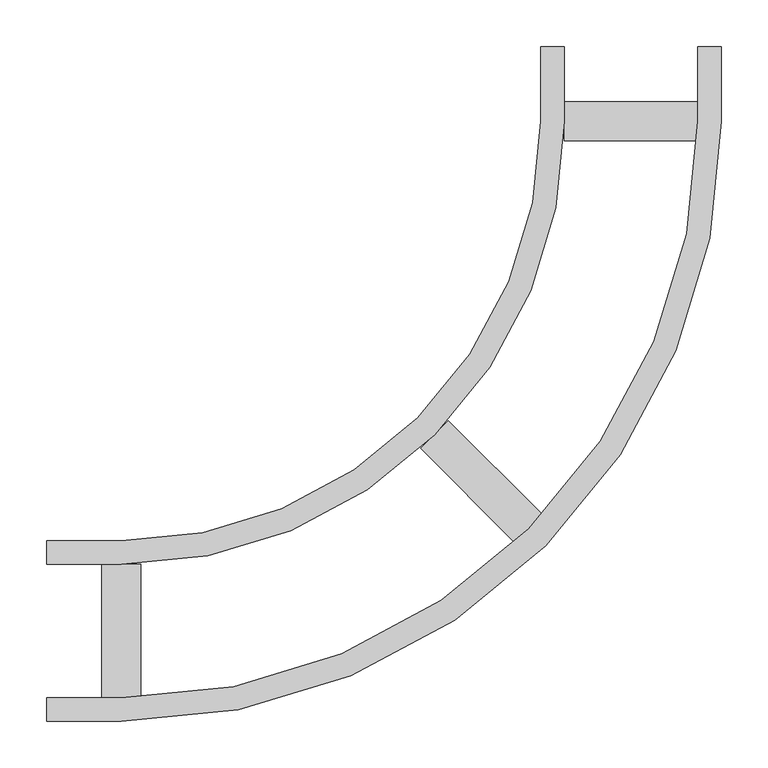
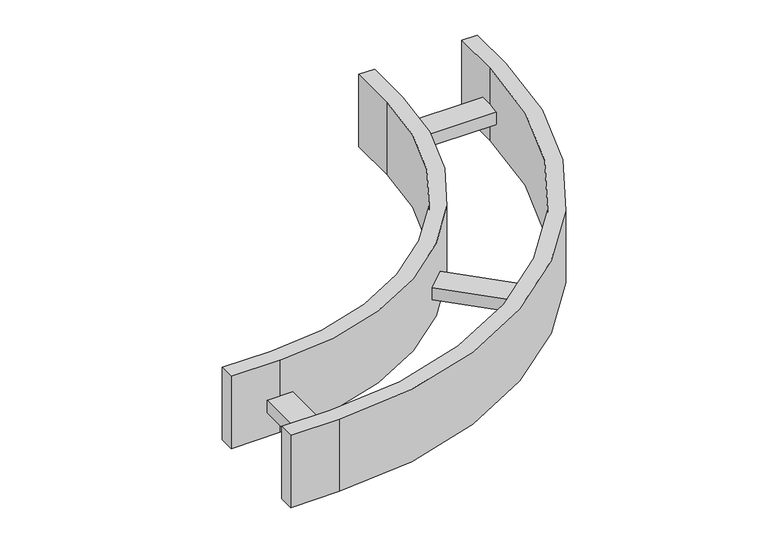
"""IFC4 building model written with IfcOpenShell, lengths in millimetres: cable carrier fitting geometry, Legrand_CableLadder_Swifts_Sapphire_FlatBend-13 : Hot Dip Galvanised (after manufacture)."""

from ifc_helpers import new_model, si_unit, point, frame, frame_2d, origin, place, context, project, spatial, polyline, circle_curve, trimmed, segment, composite_curve, outline, extrude, source, transform, mapped, element, save


def cable_carrier_fitting_26770770(model_context):
    return source(origin(), model_context, "Body", "SweptSolid", [
        extrude(outline(polyline([(-124.5036982, 94.8052134), (-225.619968, 195.9214831), (-195.9214831, 225.619968), (-94.8052134, 124.5036982), (-124.5036982, 94.8052134)])), frame((0.0, 0.0, -21.0), z_axis=(0.0, 0.0, 1.0), x_axis=(1.0, 0.0, 0.0)), (0.0, 0.0, 1.0), 21.0),
        extrude(outline(polyline([(-568.0, -71.5), (-568.0, 71.5), (-526.0, 71.5), (-526.0, -71.5), (-568.0, -71.5)])), frame((0.0, 0.0, -21.0), z_axis=(0.0, 0.0, 1.0), x_axis=(1.0, 0.0, 0.0)), (0.0, 0.0, 1.0), 21.0),
        extrude(outline(polyline([(71.5, 526.0), (-71.5, 526.0), (-71.5, 568.0), (71.5, 568.0), (71.5, 526.0)])), frame((0.0, 0.0, -21.0), z_axis=(0.0, 0.0, 1.0), x_axis=(1.0, 0.0, 0.0)), (0.0, 0.0, 1.0), 21.0),
        extrude(outline(composite_curve([segment(polyline([(-627.0, -97.0), (-627.0, -71.5), (-547.0, -71.5)]), True, "CONTINUOUS"), segment(trimmed(circle_curve(frame_2d((-547.0, 547.0)), 618.5), [point((-547.0, -71.5))], [point((71.5, 547.0))], True, "CARTESIAN"), True, "CONTINUOUS"), segment(polyline([(71.5, 547.0), (71.5, 627.0), (97.0, 627.0), (97.0, 547.0)]), True, "CONTINUOUS"), segment(trimmed(circle_curve(frame_2d((-547.0, 547.0)), 644.0), [point((97.0, 547.0))], [point((-547.0, -97.0))], False, "CARTESIAN"), True, "CONTINUOUS"), segment(polyline([(-547.0, -97.0), (-627.0, -97.0)]), True, "CONTINUOUS")], self_intersect=False)), frame((0.0, 0.0, -62.5), z_axis=(0.0, 0.0, 1.0), x_axis=(1.0, 0.0, 0.0)), (0.0, 0.0, 1.0), 125.0),
        extrude(outline(composite_curve([segment(polyline([(-627.0, 71.5), (-627.0, 97.0), (-547.0, 97.0)]), True, "CONTINUOUS"), segment(trimmed(circle_curve(frame_2d((-547.0, 547.0)), 450.0), [point((-547.0, 97.0))], [point((-97.0, 547.0))], True, "CARTESIAN"), True, "CONTINUOUS"), segment(polyline([(-97.0, 547.0), (-97.0, 627.0), (-71.5, 627.0), (-71.5, 547.0)]), True, "CONTINUOUS"), segment(trimmed(circle_curve(frame_2d((-547.0, 547.0)), 475.5), [point((-71.5, 547.0))], [point((-547.0, 71.5))], False, "CARTESIAN"), True, "CONTINUOUS"), segment(polyline([(-547.0, 71.5), (-627.0, 71.5)]), True, "CONTINUOUS")], self_intersect=False)), frame((0.0, 0.0, -62.5), z_axis=(0.0, 0.0, 1.0), x_axis=(1.0, 0.0, 0.0)), (0.0, 0.0, 1.0), 125.0),
    ])


if __name__ == "__main__":
    model = new_model("IFC4")
    model_context = context("Model", 3, world=origin())
    ifc_project = project(units=[si_unit("LENGTHUNIT", "METRE", prefix="MILLI")], contexts=[model_context])
    site = spatial("IfcSite", under=ifc_project)
    building = spatial("IfcBuilding", under=site)
    placement = place(None, origin())
    cable_carrier_fitting_shape = cable_carrier_fitting_26770770(model_context)
    element("IfcCableCarrierFitting", 1, ObjectType="Legrand_CableLadder_Swifts_Sapphire_FlatBend-13 : Hot Dip Galvanised (after manufacture)", at=placement, inside=building, context=model_context, shape_type="MappedRepresentation", body=[
        mapped(cable_carrier_fitting_shape, transform((0.0, 0.0, 0.0), x_axis=(1.0, 0.0, 0.0), y_axis=(0.0, 1.0, 0.0), z_axis=(0.0, 0.0, 1.0))),
    ])
    save(model, "model.ifc")
